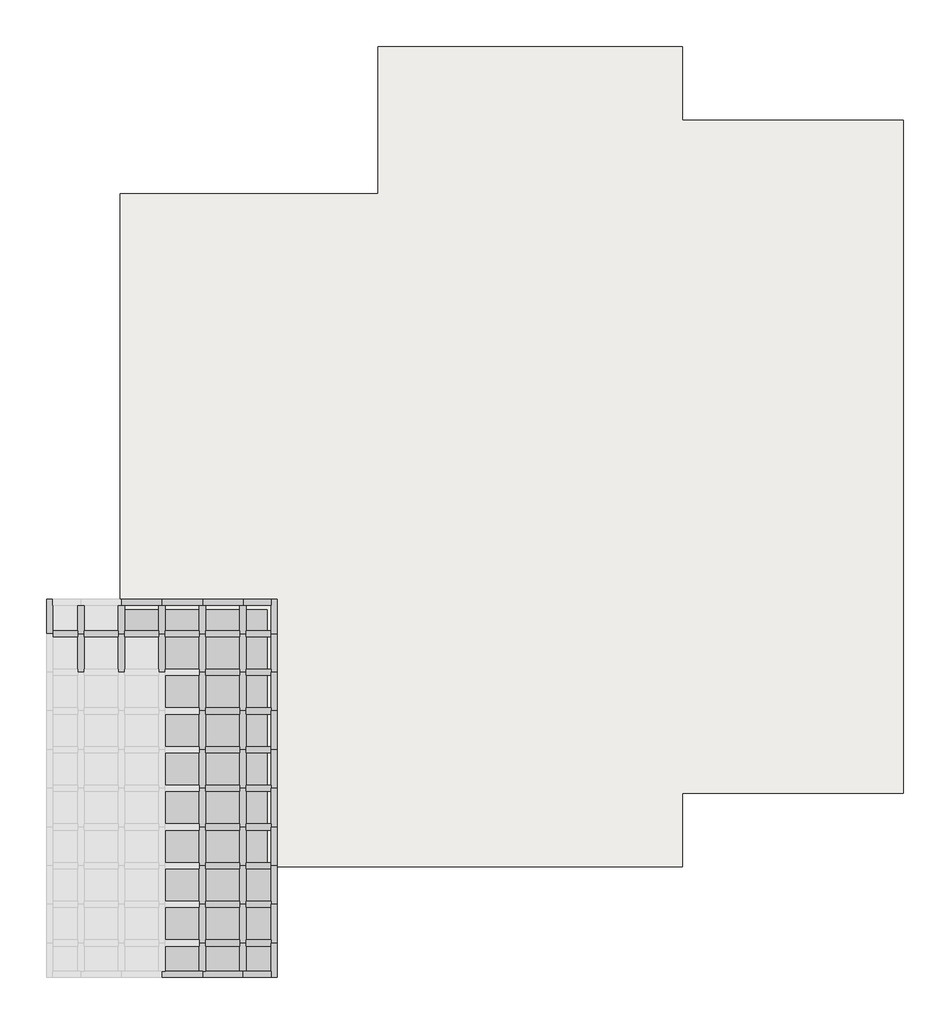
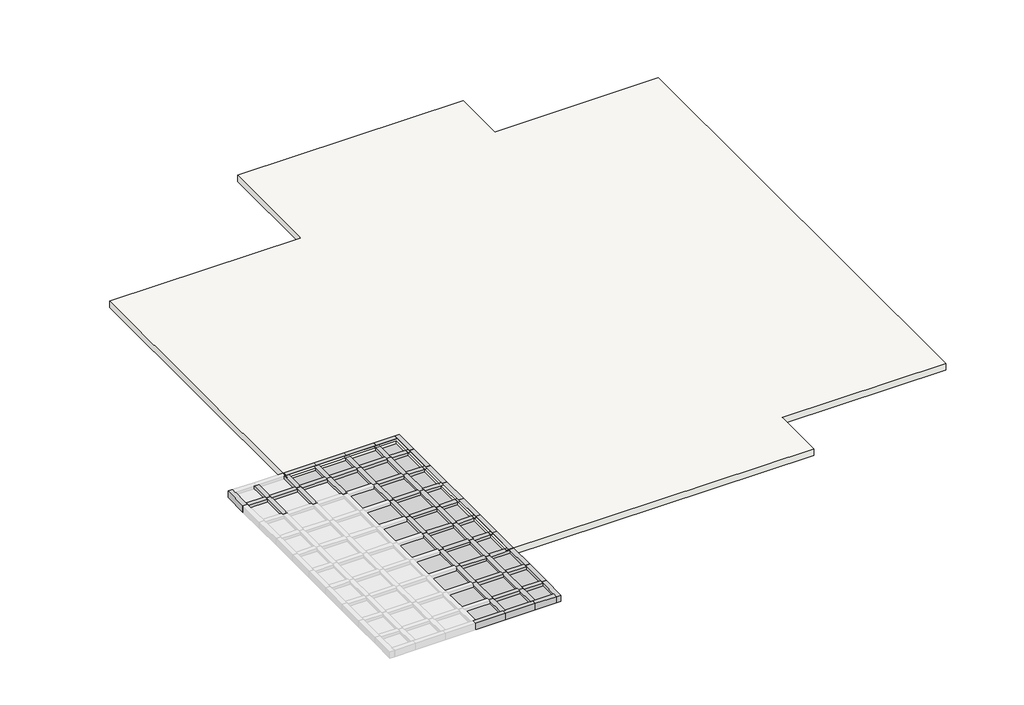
# One storey, part 2 of 2: 66 members, 31 plates, 1 slab.
"""IFC4 building model written with IfcOpenShell, lengths in millimetres."""

from ifc_helpers import new_model, si_unit, frame, origin, place, context, project, spatial, polyline, outline, extrude, transform, mapped, element, save
from components import member_100x150mm_5a4b8349, member_100x150mm_25bd5bcc, member_100x150mm_603da3bf, member_100x150mm_cb2e744a, member_100x150mm_679617a7, member_100x150mm_9d00d28b, member_100x150mm_3c09ebc3, member_100x150mm_210a08aa, plate_ec538d4f, plate_1a9b818e, plate_9b97b4d8, plate_b0de3d82

model = new_model("IFC4")

# Units and contexts
model_context = context("Model", 3, world=origin())
ifc_project = project(units=[si_unit("LENGTHUNIT", "METRE", prefix="MILLI")], contexts=[model_context])

# Site, building, storey
site = spatial("IfcSite", under=ifc_project)
building = spatial("IfcBuilding", under=site)
storey = spatial("IfcBuildingStorey", under=building, Name="标高3", Elevation=6010.0)

# Members
placement = place(None, origin())
member_100x150mm_shape = member_100x150mm_5a4b8349(model_context)
element("IfcMember", 1, ObjectType="矩形竖梃 : 100X150mm", at=placement, inside=storey, context=model_context, shape_type="MappedRepresentation", body=[
    mapped(member_100x150mm_shape, transform((-46687.1400177, -27027.7106127, 5935.0), x_axis=(0.0, 1.0, 0.0), y_axis=(0.0, 0.0, -1.0), z_axis=(-1.0, 0.0, 0.0))),
])
element("IfcMember", 2, ObjectType="矩形竖梃 : 100X150mm", at=placement, inside=storey, context=model_context, shape_type="MappedRepresentation", body=[
    mapped(member_100x150mm_shape, transform((-46687.1400177, -26397.7106127, 5935.0), x_axis=(0.0, 1.0, 0.0), y_axis=(0.0, 0.0, -1.0), z_axis=(-1.0, 0.0, 0.0))),
])
element("IfcMember", 3, ObjectType="矩形竖梃 : 100X150mm", at=placement, inside=storey, context=model_context, shape_type="MappedRepresentation", body=[
    mapped(member_100x150mm_shape, transform((-46687.1400177, -25767.7106127, 5935.0), x_axis=(0.0, 1.0, 0.0), y_axis=(0.0, 0.0, -1.0), z_axis=(-1.0, 0.0, 0.0))),
])
element("IfcMember", 4, ObjectType="矩形竖梃 : 100X150mm", at=placement, inside=storey, context=model_context, shape_type="MappedRepresentation", body=[
    mapped(member_100x150mm_shape, transform((-46687.1400177, -25137.7106127, 5935.0), x_axis=(0.0, 1.0, 0.0), y_axis=(0.0, 0.0, -1.0), z_axis=(-1.0, 0.0, 0.0))),
])
element("IfcMember", 5, ObjectType="矩形竖梃 : 100X150mm", at=placement, inside=storey, context=model_context, shape_type="MappedRepresentation", body=[
    mapped(member_100x150mm_shape, transform((-46687.1400177, -24507.7106127, 5935.0), x_axis=(0.0, 1.0, 0.0), y_axis=(0.0, 0.0, -1.0), z_axis=(-1.0, 0.0, 0.0))),
])
element("IfcMember", 6, ObjectType="矩形竖梃 : 100X150mm", at=placement, inside=storey, context=model_context, shape_type="MappedRepresentation", body=[
    mapped(member_100x150mm_shape, transform((-46687.1400177, -23877.7106127, 5935.0), x_axis=(0.0, 1.0, 0.0), y_axis=(0.0, 0.0, -1.0), z_axis=(-1.0, 0.0, 0.0))),
])
element("IfcMember", 7, ObjectType="矩形竖梃 : 100X150mm", at=placement, inside=storey, context=model_context, shape_type="MappedRepresentation", body=[
    mapped(member_100x150mm_shape, transform((-46687.1400177, -23247.7106127, 5935.0), x_axis=(0.0, 1.0, 0.0), y_axis=(0.0, 0.0, -1.0), z_axis=(-1.0, 0.0, 0.0))),
])
element("IfcMember", 8, ObjectType="矩形竖梃 : 100X150mm", at=placement, inside=storey, context=model_context, shape_type="MappedRepresentation", body=[
    mapped(member_100x150mm_shape, transform((-46687.1400177, -22617.7106127, 5935.0), x_axis=(0.0, 1.0, 0.0), y_axis=(0.0, 0.0, -1.0), z_axis=(-1.0, 0.0, 0.0))),
])
element("IfcMember", 9, ObjectType="矩形竖梃 : 100X150mm", at=placement, inside=storey, context=model_context, shape_type="MappedRepresentation", body=[
    mapped(member_100x150mm_shape, transform((-49837.1400177, -21987.7106127, 5935.0), x_axis=(0.0, 1.0, 0.0), y_axis=(0.0, 0.0, -1.0), z_axis=(-1.0, 0.0, 0.0))),
])
element("IfcMember", 10, ObjectType="矩形竖梃 : 100X150mm", at=placement, inside=storey, context=model_context, shape_type="MappedRepresentation", body=[
    mapped(member_100x150mm_shape, transform((-46687.1400177, -21987.7106127, 5935.0), x_axis=(0.0, 1.0, 0.0), y_axis=(0.0, 0.0, -1.0), z_axis=(-1.0, 0.0, 0.0))),
])
member_100x150mm_2_shape = member_100x150mm_25bd5bcc(model_context)
element("IfcMember", 11, ObjectType="矩形竖梃 : 100X150mm", at=placement, inside=storey, context=model_context, shape_type="MappedRepresentation", body=[
    mapped(member_100x150mm_2_shape, transform((-47347.1400177, -27027.7106127, 5935.0), x_axis=(0.0, 1.0, 0.0), y_axis=(0.0, 0.0, -1.0), z_axis=(-1.0, 0.0, 0.0))),
])
element("IfcMember", 12, ObjectType="矩形竖梃 : 100X150mm", at=placement, inside=storey, context=model_context, shape_type="MappedRepresentation", body=[
    mapped(member_100x150mm_2_shape, transform((-47347.1400177, -26397.7106127, 5935.0), x_axis=(0.0, 1.0, 0.0), y_axis=(0.0, 0.0, -1.0), z_axis=(-1.0, 0.0, 0.0))),
])
element("IfcMember", 13, ObjectType="矩形竖梃 : 100X150mm", at=placement, inside=storey, context=model_context, shape_type="MappedRepresentation", body=[
    mapped(member_100x150mm_2_shape, transform((-47347.1400177, -25767.7106127, 5935.0), x_axis=(0.0, 1.0, 0.0), y_axis=(0.0, 0.0, -1.0), z_axis=(-1.0, 0.0, 0.0))),
])
element("IfcMember", 14, ObjectType="矩形竖梃 : 100X150mm", at=placement, inside=storey, context=model_context, shape_type="MappedRepresentation", body=[
    mapped(member_100x150mm_2_shape, transform((-47347.1400177, -25137.7106127, 5935.0), x_axis=(0.0, 1.0, 0.0), y_axis=(0.0, 0.0, -1.0), z_axis=(-1.0, 0.0, 0.0))),
])
element("IfcMember", 15, ObjectType="矩形竖梃 : 100X150mm", at=placement, inside=storey, context=model_context, shape_type="MappedRepresentation", body=[
    mapped(member_100x150mm_2_shape, transform((-47347.1400177, -24507.7106127, 5935.0), x_axis=(0.0, 1.0, 0.0), y_axis=(0.0, 0.0, -1.0), z_axis=(-1.0, 0.0, 0.0))),
])
element("IfcMember", 16, ObjectType="矩形竖梃 : 100X150mm", at=placement, inside=storey, context=model_context, shape_type="MappedRepresentation", body=[
    mapped(member_100x150mm_2_shape, transform((-47347.1400177, -23877.7106127, 5935.0), x_axis=(0.0, 1.0, 0.0), y_axis=(0.0, 0.0, -1.0), z_axis=(-1.0, 0.0, 0.0))),
])
element("IfcMember", 17, ObjectType="矩形竖梃 : 100X150mm", at=placement, inside=storey, context=model_context, shape_type="MappedRepresentation", body=[
    mapped(member_100x150mm_2_shape, transform((-47347.1400177, -23247.7106127, 5935.0), x_axis=(0.0, 1.0, 0.0), y_axis=(0.0, 0.0, -1.0), z_axis=(-1.0, 0.0, 0.0))),
])
element("IfcMember", 18, ObjectType="矩形竖梃 : 100X150mm", at=placement, inside=storey, context=model_context, shape_type="MappedRepresentation", body=[
    mapped(member_100x150mm_2_shape, transform((-47347.1400177, -22617.7106127, 5935.0), x_axis=(0.0, 1.0, 0.0), y_axis=(0.0, 0.0, -1.0), z_axis=(-1.0, 0.0, 0.0))),
])
element("IfcMember", 19, ObjectType="矩形竖梃 : 100X150mm", at=placement, inside=storey, context=model_context, shape_type="MappedRepresentation", body=[
    mapped(member_100x150mm_2_shape, transform((-49327.1400177, -21987.7106127, 5935.0), x_axis=(0.0, 1.0, 0.0), y_axis=(0.0, 0.0, -1.0), z_axis=(-1.0, 0.0, 0.0))),
])
element("IfcMember", 20, ObjectType="矩形竖梃 : 100X150mm", at=placement, inside=storey, context=model_context, shape_type="MappedRepresentation", body=[
    mapped(member_100x150mm_2_shape, transform((-48667.1400177, -21987.7106127, 5935.0), x_axis=(0.0, 1.0, 0.0), y_axis=(0.0, 0.0, -1.0), z_axis=(-1.0, 0.0, 0.0))),
])
element("IfcMember", 21, ObjectType="矩形竖梃 : 100X150mm", at=placement, inside=storey, context=model_context, shape_type="MappedRepresentation", body=[
    mapped(member_100x150mm_2_shape, transform((-48007.1400177, -21987.7106127, 5935.0), x_axis=(0.0, 1.0, 0.0), y_axis=(0.0, 0.0, -1.0), z_axis=(-1.0, 0.0, 0.0))),
])
element("IfcMember", 22, ObjectType="矩形竖梃 : 100X150mm", at=placement, inside=storey, context=model_context, shape_type="MappedRepresentation", body=[
    mapped(member_100x150mm_2_shape, transform((-47347.1400177, -21987.7106127, 5935.0), x_axis=(0.0, 1.0, 0.0), y_axis=(0.0, 0.0, -1.0), z_axis=(-1.0, 0.0, 0.0))),
])
member_100x150mm_3_shape = member_100x150mm_603da3bf(model_context)
element("IfcMember", 23, ObjectType="矩形竖梃 : 100X150mm", at=placement, inside=storey, context=model_context, shape_type="MappedRepresentation", body=[
    mapped(member_100x150mm_3_shape, transform((-49377.1400177, -21527.7106127, 5935.0), x_axis=(1.0, 0.0, 0.0), y_axis=(0.0, 0.0, -1.0), z_axis=(0.0, 1.0, 0.0))),
])
element("IfcMember", 24, ObjectType="矩形竖梃 : 100X150mm", at=placement, inside=storey, context=model_context, shape_type="MappedRepresentation", body=[
    mapped(member_100x150mm_3_shape, transform((-48717.1400177, -21527.7106127, 5935.0), x_axis=(1.0, 0.0, 0.0), y_axis=(0.0, 0.0, -1.0), z_axis=(0.0, 1.0, 0.0))),
])
element("IfcMember", 25, ObjectType="矩形竖梃 : 100X150mm", at=placement, inside=storey, context=model_context, shape_type="MappedRepresentation", body=[
    mapped(member_100x150mm_3_shape, transform((-48057.1400177, -21527.7106127, 5935.0), x_axis=(1.0, 0.0, 0.0), y_axis=(0.0, 0.0, -1.0), z_axis=(0.0, 1.0, 0.0))),
])
element("IfcMember", 26, ObjectType="矩形竖梃 : 100X150mm", at=placement, inside=storey, context=model_context, shape_type="MappedRepresentation", body=[
    mapped(member_100x150mm_3_shape, transform((-47397.1400177, -21527.7106127, 5935.0), x_axis=(1.0, 0.0, 0.0), y_axis=(0.0, 0.0, -1.0), z_axis=(0.0, 1.0, 0.0))),
])
element("IfcMember", 27, ObjectType="矩形竖梃 : 100X150mm", at=placement, inside=storey, context=model_context, shape_type="MappedRepresentation", body=[
    mapped(member_100x150mm_3_shape, transform((-46737.1400177, -21527.7106127, 5935.0), x_axis=(1.0, 0.0, 0.0), y_axis=(0.0, 0.0, -1.0), z_axis=(0.0, 1.0, 0.0))),
])
element("IfcMember", 28, ObjectType="矩形竖梃 : 100X150mm", at=placement, inside=storey, context=model_context, shape_type="MappedRepresentation", body=[
    mapped(member_100x150mm_3_shape, transform((-47397.1400177, -27027.7106127, 5935.0), x_axis=(1.0, 0.0, 0.0), y_axis=(0.0, 0.0, -1.0), z_axis=(0.0, 1.0, 0.0))),
])
element("IfcMember", 29, ObjectType="矩形竖梃 : 100X150mm", at=placement, inside=storey, context=model_context, shape_type="MappedRepresentation", body=[
    mapped(member_100x150mm_3_shape, transform((-46737.1400177, -27027.7106127, 5935.0), x_axis=(1.0, 0.0, 0.0), y_axis=(0.0, 0.0, -1.0), z_axis=(0.0, 1.0, 0.0))),
])
member_100x150mm_4_shape = member_100x150mm_cb2e744a(model_context)
element("IfcMember", 30, ObjectType="矩形竖梃 : 100X150mm", at=placement, inside=storey, context=model_context, shape_type="MappedRepresentation", body=[
    mapped(member_100x150mm_4_shape, transform((-47397.1400177, -26397.7106127, 5935.0), x_axis=(1.0, 0.0, 0.0), y_axis=(0.0, 0.0, -1.0), z_axis=(0.0, 1.0, 0.0))),
])
element("IfcMember", 31, ObjectType="矩形竖梃 : 100X150mm", at=placement, inside=storey, context=model_context, shape_type="MappedRepresentation", body=[
    mapped(member_100x150mm_4_shape, transform((-46737.1400177, -26397.7106127, 5935.0), x_axis=(1.0, 0.0, 0.0), y_axis=(0.0, 0.0, -1.0), z_axis=(0.0, 1.0, 0.0))),
])
element("IfcMember", 32, ObjectType="矩形竖梃 : 100X150mm", at=placement, inside=storey, context=model_context, shape_type="MappedRepresentation", body=[
    mapped(member_100x150mm_4_shape, transform((-47397.1400177, -25767.7106127, 5935.0), x_axis=(1.0, 0.0, 0.0), y_axis=(0.0, 0.0, -1.0), z_axis=(0.0, 1.0, 0.0))),
])
element("IfcMember", 33, ObjectType="矩形竖梃 : 100X150mm", at=placement, inside=storey, context=model_context, shape_type="MappedRepresentation", body=[
    mapped(member_100x150mm_4_shape, transform((-46737.1400177, -25767.7106127, 5935.0), x_axis=(1.0, 0.0, 0.0), y_axis=(0.0, 0.0, -1.0), z_axis=(0.0, 1.0, 0.0))),
])
element("IfcMember", 34, ObjectType="矩形竖梃 : 100X150mm", at=placement, inside=storey, context=model_context, shape_type="MappedRepresentation", body=[
    mapped(member_100x150mm_4_shape, transform((-47397.1400177, -25137.7106127, 5935.0), x_axis=(1.0, 0.0, 0.0), y_axis=(0.0, 0.0, -1.0), z_axis=(0.0, 1.0, 0.0))),
])
element("IfcMember", 35, ObjectType="矩形竖梃 : 100X150mm", at=placement, inside=storey, context=model_context, shape_type="MappedRepresentation", body=[
    mapped(member_100x150mm_4_shape, transform((-46737.1400177, -25137.7106127, 5935.0), x_axis=(1.0, 0.0, 0.0), y_axis=(0.0, 0.0, -1.0), z_axis=(0.0, 1.0, 0.0))),
])
element("IfcMember", 36, ObjectType="矩形竖梃 : 100X150mm", at=placement, inside=storey, context=model_context, shape_type="MappedRepresentation", body=[
    mapped(member_100x150mm_4_shape, transform((-47397.1400177, -24507.7106127, 5935.0), x_axis=(1.0, 0.0, 0.0), y_axis=(0.0, 0.0, -1.0), z_axis=(0.0, 1.0, 0.0))),
])
element("IfcMember", 37, ObjectType="矩形竖梃 : 100X150mm", at=placement, inside=storey, context=model_context, shape_type="MappedRepresentation", body=[
    mapped(member_100x150mm_4_shape, transform((-46737.1400177, -24507.7106127, 5935.0), x_axis=(1.0, 0.0, 0.0), y_axis=(0.0, 0.0, -1.0), z_axis=(0.0, 1.0, 0.0))),
])
element("IfcMember", 38, ObjectType="矩形竖梃 : 100X150mm", at=placement, inside=storey, context=model_context, shape_type="MappedRepresentation", body=[
    mapped(member_100x150mm_4_shape, transform((-47397.1400177, -23877.7106127, 5935.0), x_axis=(1.0, 0.0, 0.0), y_axis=(0.0, 0.0, -1.0), z_axis=(0.0, 1.0, 0.0))),
])
element("IfcMember", 39, ObjectType="矩形竖梃 : 100X150mm", at=placement, inside=storey, context=model_context, shape_type="MappedRepresentation", body=[
    mapped(member_100x150mm_4_shape, transform((-46737.1400177, -23877.7106127, 5935.0), x_axis=(1.0, 0.0, 0.0), y_axis=(0.0, 0.0, -1.0), z_axis=(0.0, 1.0, 0.0))),
])
element("IfcMember", 40, ObjectType="矩形竖梃 : 100X150mm", at=placement, inside=storey, context=model_context, shape_type="MappedRepresentation", body=[
    mapped(member_100x150mm_4_shape, transform((-47397.1400177, -23247.7106127, 5935.0), x_axis=(1.0, 0.0, 0.0), y_axis=(0.0, 0.0, -1.0), z_axis=(0.0, 1.0, 0.0))),
])
element("IfcMember", 41, ObjectType="矩形竖梃 : 100X150mm", at=placement, inside=storey, context=model_context, shape_type="MappedRepresentation", body=[
    mapped(member_100x150mm_4_shape, transform((-46737.1400177, -23247.7106127, 5935.0), x_axis=(1.0, 0.0, 0.0), y_axis=(0.0, 0.0, -1.0), z_axis=(0.0, 1.0, 0.0))),
])
element("IfcMember", 42, ObjectType="矩形竖梃 : 100X150mm", at=placement, inside=storey, context=model_context, shape_type="MappedRepresentation", body=[
    mapped(member_100x150mm_4_shape, transform((-47397.1400177, -22617.7106127, 5935.0), x_axis=(1.0, 0.0, 0.0), y_axis=(0.0, 0.0, -1.0), z_axis=(0.0, 1.0, 0.0))),
])
element("IfcMember", 43, ObjectType="矩形竖梃 : 100X150mm", at=placement, inside=storey, context=model_context, shape_type="MappedRepresentation", body=[
    mapped(member_100x150mm_4_shape, transform((-46737.1400177, -22617.7106127, 5935.0), x_axis=(1.0, 0.0, 0.0), y_axis=(0.0, 0.0, -1.0), z_axis=(0.0, 1.0, 0.0))),
])
element("IfcMember", 44, ObjectType="矩形竖梃 : 100X150mm", at=placement, inside=storey, context=model_context, shape_type="MappedRepresentation", body=[
    mapped(member_100x150mm_4_shape, transform((-49377.1400177, -21987.7106127, 5935.0), x_axis=(1.0, 0.0, 0.0), y_axis=(0.0, 0.0, -1.0), z_axis=(0.0, 1.0, 0.0))),
])
element("IfcMember", 45, ObjectType="矩形竖梃 : 100X150mm", at=placement, inside=storey, context=model_context, shape_type="MappedRepresentation", body=[
    mapped(member_100x150mm_4_shape, transform((-48717.1400177, -21987.7106127, 5935.0), x_axis=(1.0, 0.0, 0.0), y_axis=(0.0, 0.0, -1.0), z_axis=(0.0, 1.0, 0.0))),
])
element("IfcMember", 46, ObjectType="矩形竖梃 : 100X150mm", at=placement, inside=storey, context=model_context, shape_type="MappedRepresentation", body=[
    mapped(member_100x150mm_4_shape, transform((-48057.1400177, -21987.7106127, 5935.0), x_axis=(1.0, 0.0, 0.0), y_axis=(0.0, 0.0, -1.0), z_axis=(0.0, 1.0, 0.0))),
])
element("IfcMember", 47, ObjectType="矩形竖梃 : 100X150mm", at=placement, inside=storey, context=model_context, shape_type="MappedRepresentation", body=[
    mapped(member_100x150mm_4_shape, transform((-47397.1400177, -21987.7106127, 5935.0), x_axis=(1.0, 0.0, 0.0), y_axis=(0.0, 0.0, -1.0), z_axis=(0.0, 1.0, 0.0))),
])
element("IfcMember", 48, ObjectType="矩形竖梃 : 100X150mm", at=placement, inside=storey, context=model_context, shape_type="MappedRepresentation", body=[
    mapped(member_100x150mm_4_shape, transform((-46737.1400177, -21987.7106127, 5935.0), x_axis=(1.0, 0.0, 0.0), y_axis=(0.0, 0.0, -1.0), z_axis=(0.0, 1.0, 0.0))),
])
member_100x150mm_5_shape = member_100x150mm_679617a7(model_context)
element("IfcMember", 49, ObjectType="矩形竖梃 : 100X150mm", at=placement, inside=storey, context=model_context, shape_type="MappedRepresentation", body=[
    mapped(member_100x150mm_5_shape, transform((-46277.1400177, -27587.7106127, 5935.0), x_axis=(0.0, -1.0, 0.0), y_axis=(0.0, 0.0, -1.0), z_axis=(1.0, 0.0, 0.0))),
])
element("IfcMember", 50, ObjectType="矩形竖梃 : 100X150mm", at=placement, inside=storey, context=model_context, shape_type="MappedRepresentation", body=[
    mapped(member_100x150mm_5_shape, transform((-46737.1400177, -21427.7106127, 5935.0), x_axis=(0.0, 1.0, 0.0), y_axis=(0.0, 0.0, -1.0), z_axis=(-1.0, 0.0, 0.0))),
])
member_100x150mm_6_shape = member_100x150mm_9d00d28b(model_context)
element("IfcMember", 51, ObjectType="矩形竖梃 : 100X150mm", at=placement, inside=storey, context=model_context, shape_type="MappedRepresentation", body=[
    mapped(member_100x150mm_6_shape, transform((-47397.1400177, -27587.7106127, 5935.0), x_axis=(0.0, -1.0, 0.0), y_axis=(0.0, 0.0, -1.0), z_axis=(1.0, 0.0, 0.0))),
])
element("IfcMember", 52, ObjectType="矩形竖梃 : 100X150mm", at=placement, inside=storey, context=model_context, shape_type="MappedRepresentation", body=[
    mapped(member_100x150mm_6_shape, transform((-46737.1400177, -27587.7106127, 5935.0), x_axis=(0.0, -1.0, 0.0), y_axis=(0.0, 0.0, -1.0), z_axis=(1.0, 0.0, 0.0))),
])
element("IfcMember", 53, ObjectType="矩形竖梃 : 100X150mm", at=placement, inside=storey, context=model_context, shape_type="MappedRepresentation", body=[
    mapped(member_100x150mm_6_shape, transform((-48717.1400177, -21427.7106127, 5935.0), x_axis=(0.0, 1.0, 0.0), y_axis=(0.0, 0.0, -1.0), z_axis=(-1.0, 0.0, 0.0))),
])
element("IfcMember", 54, ObjectType="矩形竖梃 : 100X150mm", at=placement, inside=storey, context=model_context, shape_type="MappedRepresentation", body=[
    mapped(member_100x150mm_6_shape, transform((-48057.1400177, -21427.7106127, 5935.0), x_axis=(0.0, 1.0, 0.0), y_axis=(0.0, 0.0, -1.0), z_axis=(-1.0, 0.0, 0.0))),
])
element("IfcMember", 55, ObjectType="矩形竖梃 : 100X150mm", at=placement, inside=storey, context=model_context, shape_type="MappedRepresentation", body=[
    mapped(member_100x150mm_6_shape, transform((-47397.1400177, -21427.7106127, 5935.0), x_axis=(0.0, 1.0, 0.0), y_axis=(0.0, 0.0, -1.0), z_axis=(-1.0, 0.0, 0.0))),
])
member_100x150mm_7_shape = member_100x150mm_3c09ebc3(model_context)
element("IfcMember", 56, ObjectType="矩形竖梃 : 100X150mm", at=placement, inside=storey, context=model_context, shape_type="MappedRepresentation", body=[
    mapped(member_100x150mm_7_shape, transform((-46177.1400177, -21427.7106127, 5935.0), x_axis=(1.0, 0.0, 0.0), y_axis=(0.0, 0.0, -1.0), z_axis=(0.0, 1.0, 0.0))),
])
member_100x150mm_8_shape = member_100x150mm_210a08aa(model_context)
element("IfcMember", 57, ObjectType="矩形竖梃 : 100X150mm", at=placement, inside=storey, context=model_context, shape_type="MappedRepresentation", body=[
    mapped(member_100x150mm_8_shape, transform((-46177.1400177, -26397.7106127, 5935.0), x_axis=(1.0, 0.0, 0.0), y_axis=(0.0, 0.0, -1.0), z_axis=(0.0, 1.0, 0.0))),
])
element("IfcMember", 58, ObjectType="矩形竖梃 : 100X150mm", at=placement, inside=storey, context=model_context, shape_type="MappedRepresentation", body=[
    mapped(member_100x150mm_8_shape, transform((-46177.1400177, -25767.7106127, 5935.0), x_axis=(1.0, 0.0, 0.0), y_axis=(0.0, 0.0, -1.0), z_axis=(0.0, 1.0, 0.0))),
])
element("IfcMember", 59, ObjectType="矩形竖梃 : 100X150mm", at=placement, inside=storey, context=model_context, shape_type="MappedRepresentation", body=[
    mapped(member_100x150mm_8_shape, transform((-46177.1400177, -25137.7106127, 5935.0), x_axis=(1.0, 0.0, 0.0), y_axis=(0.0, 0.0, -1.0), z_axis=(0.0, 1.0, 0.0))),
])
element("IfcMember", 60, ObjectType="矩形竖梃 : 100X150mm", at=placement, inside=storey, context=model_context, shape_type="MappedRepresentation", body=[
    mapped(member_100x150mm_8_shape, transform((-46177.1400177, -24507.7106127, 5935.0), x_axis=(1.0, 0.0, 0.0), y_axis=(0.0, 0.0, -1.0), z_axis=(0.0, 1.0, 0.0))),
])
element("IfcMember", 61, ObjectType="矩形竖梃 : 100X150mm", at=placement, inside=storey, context=model_context, shape_type="MappedRepresentation", body=[
    mapped(member_100x150mm_8_shape, transform((-46177.1400177, -23877.7106127, 5935.0), x_axis=(1.0, 0.0, 0.0), y_axis=(0.0, 0.0, -1.0), z_axis=(0.0, 1.0, 0.0))),
])
element("IfcMember", 62, ObjectType="矩形竖梃 : 100X150mm", at=placement, inside=storey, context=model_context, shape_type="MappedRepresentation", body=[
    mapped(member_100x150mm_8_shape, transform((-46177.1400177, -23247.7106127, 5935.0), x_axis=(1.0, 0.0, 0.0), y_axis=(0.0, 0.0, -1.0), z_axis=(0.0, 1.0, 0.0))),
])
element("IfcMember", 63, ObjectType="矩形竖梃 : 100X150mm", at=placement, inside=storey, context=model_context, shape_type="MappedRepresentation", body=[
    mapped(member_100x150mm_8_shape, transform((-46177.1400177, -22617.7106127, 5935.0), x_axis=(1.0, 0.0, 0.0), y_axis=(0.0, 0.0, -1.0), z_axis=(0.0, 1.0, 0.0))),
])
element("IfcMember", 64, ObjectType="矩形竖梃 : 100X150mm", at=placement, inside=storey, context=model_context, shape_type="MappedRepresentation", body=[
    mapped(member_100x150mm_8_shape, transform((-46177.1400177, -21987.7106127, 5935.0), x_axis=(1.0, 0.0, 0.0), y_axis=(0.0, 0.0, -1.0), z_axis=(0.0, 1.0, 0.0))),
])
element("IfcMember", 65, ObjectType="矩形竖梃 : 100X150mm", at=placement, inside=storey, context=model_context, shape_type="MappedRepresentation", body=[
    mapped(member_100x150mm_7_shape, transform((-49937.1400177, -21987.7106127, 5935.0), x_axis=(-1.0, 0.0, 0.0), y_axis=(0.0, 0.0, -1.0), z_axis=(0.0, -1.0, 0.0))),
])
element("IfcMember", 66, ObjectType="矩形竖梃 : 100X150mm", at=placement, inside=storey, context=model_context, shape_type="MappedRepresentation", body=[
    mapped(member_100x150mm_7_shape, transform((-46177.1400177, -27027.7106127, 5935.0), x_axis=(1.0, 0.0, 0.0), y_axis=(0.0, 0.0, -1.0), z_axis=(0.0, 1.0, 0.0))),
])

# Plates
plate_shape = plate_ec538d4f(model_context)
element("IfcPlate", 67, ObjectType="系统嵌板 : 玻璃", at=placement, inside=storey, context=model_context, shape_type="MappedRepresentation", body=[
    mapped(plate_shape, transform((-46482.1400177, -27487.7106127, 5935.0), x_axis=(1.0, 0.0, 0.0), y_axis=(0.0, 0.0, -1.0), z_axis=(0.0, 1.0, 0.0))),
])
element("IfcPlate", 68, ObjectType="系统嵌板 : 玻璃", at=placement, inside=storey, context=model_context, shape_type="MappedRepresentation", body=[
    mapped(plate_shape, transform((-46482.1400177, -21937.7106127, 5935.0), x_axis=(1.0, 0.0, 0.0), y_axis=(0.0, 0.0, -1.0), z_axis=(0.0, 1.0, 0.0))),
])
plate_2_shape = plate_1a9b818e(model_context)
element("IfcPlate", 69, ObjectType="系统嵌板 : 玻璃", at=placement, inside=storey, context=model_context, shape_type="MappedRepresentation", body=[
    mapped(plate_2_shape, transform((-47727.1400177, -27487.7106127, 5935.0), x_axis=(1.0, 0.0, 0.0), y_axis=(0.0, 0.0, -1.0), z_axis=(0.0, 1.0, 0.0))),
])
element("IfcPlate", 70, ObjectType="系统嵌板 : 玻璃", at=placement, inside=storey, context=model_context, shape_type="MappedRepresentation", body=[
    mapped(plate_2_shape, transform((-47067.1400177, -27487.7106127, 5935.0), x_axis=(1.0, 0.0, 0.0), y_axis=(0.0, 0.0, -1.0), z_axis=(0.0, 1.0, 0.0))),
])
element("IfcPlate", 71, ObjectType="系统嵌板 : 玻璃", at=placement, inside=storey, context=model_context, shape_type="MappedRepresentation", body=[
    mapped(plate_2_shape, transform((-47067.1400177, -21937.7106127, 5935.0), x_axis=(1.0, 0.0, 0.0), y_axis=(0.0, 0.0, -1.0), z_axis=(0.0, 1.0, 0.0))),
])
element("IfcPlate", 72, ObjectType="系统嵌板 : 玻璃", at=placement, inside=storey, context=model_context, shape_type="MappedRepresentation", body=[
    mapped(plate_2_shape, transform((-48387.1400177, -21937.7106127, 5935.0), x_axis=(1.0, 0.0, 0.0), y_axis=(0.0, 0.0, -1.0), z_axis=(0.0, 1.0, 0.0))),
])
element("IfcPlate", 73, ObjectType="系统嵌板 : 玻璃", at=placement, inside=storey, context=model_context, shape_type="MappedRepresentation", body=[
    mapped(plate_2_shape, transform((-47727.1400177, -21937.7106127, 5935.0), x_axis=(1.0, 0.0, 0.0), y_axis=(0.0, 0.0, -1.0), z_axis=(0.0, 1.0, 0.0))),
])
plate_3_shape = plate_9b97b4d8(model_context)
element("IfcPlate", 74, ObjectType="系统嵌板 : 玻璃", at=placement, inside=storey, context=model_context, shape_type="MappedRepresentation", body=[
    mapped(plate_3_shape, transform((-46482.1400177, -26977.7106127, 5935.0), x_axis=(1.0, 0.0, 0.0), y_axis=(0.0, 0.0, -1.0), z_axis=(0.0, 1.0, 0.0))),
])
element("IfcPlate", 75, ObjectType="系统嵌板 : 玻璃", at=placement, inside=storey, context=model_context, shape_type="MappedRepresentation", body=[
    mapped(plate_3_shape, transform((-46482.1400177, -26347.7106127, 5935.0), x_axis=(1.0, 0.0, 0.0), y_axis=(0.0, 0.0, -1.0), z_axis=(0.0, 1.0, 0.0))),
])
element("IfcPlate", 76, ObjectType="系统嵌板 : 玻璃", at=placement, inside=storey, context=model_context, shape_type="MappedRepresentation", body=[
    mapped(plate_3_shape, transform((-46482.1400177, -25717.7106127, 5935.0), x_axis=(1.0, 0.0, 0.0), y_axis=(0.0, 0.0, -1.0), z_axis=(0.0, 1.0, 0.0))),
])
element("IfcPlate", 77, ObjectType="系统嵌板 : 玻璃", at=placement, inside=storey, context=model_context, shape_type="MappedRepresentation", body=[
    mapped(plate_3_shape, transform((-46482.1400177, -25087.7106127, 5935.0), x_axis=(1.0, 0.0, 0.0), y_axis=(0.0, 0.0, -1.0), z_axis=(0.0, 1.0, 0.0))),
])
element("IfcPlate", 78, ObjectType="系统嵌板 : 玻璃", at=placement, inside=storey, context=model_context, shape_type="MappedRepresentation", body=[
    mapped(plate_3_shape, transform((-46482.1400177, -24457.7106127, 5935.0), x_axis=(1.0, 0.0, 0.0), y_axis=(0.0, 0.0, -1.0), z_axis=(0.0, 1.0, 0.0))),
])
element("IfcPlate", 79, ObjectType="系统嵌板 : 玻璃", at=placement, inside=storey, context=model_context, shape_type="MappedRepresentation", body=[
    mapped(plate_3_shape, transform((-46482.1400177, -23827.7106127, 5935.0), x_axis=(1.0, 0.0, 0.0), y_axis=(0.0, 0.0, -1.0), z_axis=(0.0, 1.0, 0.0))),
])
element("IfcPlate", 80, ObjectType="系统嵌板 : 玻璃", at=placement, inside=storey, context=model_context, shape_type="MappedRepresentation", body=[
    mapped(plate_3_shape, transform((-46482.1400177, -23197.7106127, 5935.0), x_axis=(1.0, 0.0, 0.0), y_axis=(0.0, 0.0, -1.0), z_axis=(0.0, 1.0, 0.0))),
])
element("IfcPlate", 81, ObjectType="系统嵌板 : 玻璃", at=placement, inside=storey, context=model_context, shape_type="MappedRepresentation", body=[
    mapped(plate_3_shape, transform((-46482.1400177, -22567.7106127, 5935.0), x_axis=(1.0, 0.0, 0.0), y_axis=(0.0, 0.0, -1.0), z_axis=(0.0, 1.0, 0.0))),
])
plate_4_shape = plate_b0de3d82(model_context)
element("IfcPlate", 82, ObjectType="系统嵌板 : 玻璃", at=placement, inside=storey, context=model_context, shape_type="MappedRepresentation", body=[
    mapped(plate_4_shape, transform((-47067.1400177, -26977.7106127, 5935.0), x_axis=(1.0, 0.0, 0.0), y_axis=(0.0, 0.0, -1.0), z_axis=(0.0, 1.0, 0.0))),
])
element("IfcPlate", 83, ObjectType="系统嵌板 : 玻璃", at=placement, inside=storey, context=model_context, shape_type="MappedRepresentation", body=[
    mapped(plate_4_shape, transform((-47727.1400177, -26977.7106127, 5935.0), x_axis=(1.0, 0.0, 0.0), y_axis=(0.0, 0.0, -1.0), z_axis=(0.0, 1.0, 0.0))),
])
element("IfcPlate", 84, ObjectType="系统嵌板 : 玻璃", at=placement, inside=storey, context=model_context, shape_type="MappedRepresentation", body=[
    mapped(plate_4_shape, transform((-47067.1400177, -26347.7106127, 5935.0), x_axis=(1.0, 0.0, 0.0), y_axis=(0.0, 0.0, -1.0), z_axis=(0.0, 1.0, 0.0))),
])
element("IfcPlate", 85, ObjectType="系统嵌板 : 玻璃", at=placement, inside=storey, context=model_context, shape_type="MappedRepresentation", body=[
    mapped(plate_4_shape, transform((-47727.1400177, -26347.7106127, 5935.0), x_axis=(1.0, 0.0, 0.0), y_axis=(0.0, 0.0, -1.0), z_axis=(0.0, 1.0, 0.0))),
])
element("IfcPlate", 86, ObjectType="系统嵌板 : 玻璃", at=placement, inside=storey, context=model_context, shape_type="MappedRepresentation", body=[
    mapped(plate_4_shape, transform((-47067.1400177, -25717.7106127, 5935.0), x_axis=(1.0, 0.0, 0.0), y_axis=(0.0, 0.0, -1.0), z_axis=(0.0, 1.0, 0.0))),
])
element("IfcPlate", 87, ObjectType="系统嵌板 : 玻璃", at=placement, inside=storey, context=model_context, shape_type="MappedRepresentation", body=[
    mapped(plate_4_shape, transform((-47727.1400177, -25717.7106127, 5935.0), x_axis=(1.0, 0.0, 0.0), y_axis=(0.0, 0.0, -1.0), z_axis=(0.0, 1.0, 0.0))),
])
element("IfcPlate", 88, ObjectType="系统嵌板 : 玻璃", at=placement, inside=storey, context=model_context, shape_type="MappedRepresentation", body=[
    mapped(plate_4_shape, transform((-47067.1400177, -25087.7106127, 5935.0), x_axis=(1.0, 0.0, 0.0), y_axis=(0.0, 0.0, -1.0), z_axis=(0.0, 1.0, 0.0))),
])
element("IfcPlate", 89, ObjectType="系统嵌板 : 玻璃", at=placement, inside=storey, context=model_context, shape_type="MappedRepresentation", body=[
    mapped(plate_4_shape, transform((-47727.1400177, -25087.7106127, 5935.0), x_axis=(1.0, 0.0, 0.0), y_axis=(0.0, 0.0, -1.0), z_axis=(0.0, 1.0, 0.0))),
])
element("IfcPlate", 90, ObjectType="系统嵌板 : 玻璃", at=placement, inside=storey, context=model_context, shape_type="MappedRepresentation", body=[
    mapped(plate_4_shape, transform((-47067.1400177, -24457.7106127, 5935.0), x_axis=(1.0, 0.0, 0.0), y_axis=(0.0, 0.0, -1.0), z_axis=(0.0, 1.0, 0.0))),
])
element("IfcPlate", 91, ObjectType="系统嵌板 : 玻璃", at=placement, inside=storey, context=model_context, shape_type="MappedRepresentation", body=[
    mapped(plate_4_shape, transform((-47727.1400177, -24457.7106127, 5935.0), x_axis=(1.0, 0.0, 0.0), y_axis=(0.0, 0.0, -1.0), z_axis=(0.0, 1.0, 0.0))),
])
element("IfcPlate", 92, ObjectType="系统嵌板 : 玻璃", at=placement, inside=storey, context=model_context, shape_type="MappedRepresentation", body=[
    mapped(plate_4_shape, transform((-47067.1400177, -23827.7106127, 5935.0), x_axis=(1.0, 0.0, 0.0), y_axis=(0.0, 0.0, -1.0), z_axis=(0.0, 1.0, 0.0))),
])
element("IfcPlate", 93, ObjectType="系统嵌板 : 玻璃", at=placement, inside=storey, context=model_context, shape_type="MappedRepresentation", body=[
    mapped(plate_4_shape, transform((-47727.1400177, -23827.7106127, 5935.0), x_axis=(1.0, 0.0, 0.0), y_axis=(0.0, 0.0, -1.0), z_axis=(0.0, 1.0, 0.0))),
])
element("IfcPlate", 94, ObjectType="系统嵌板 : 玻璃", at=placement, inside=storey, context=model_context, shape_type="MappedRepresentation", body=[
    mapped(plate_4_shape, transform((-47067.1400177, -23197.7106127, 5935.0), x_axis=(1.0, 0.0, 0.0), y_axis=(0.0, 0.0, -1.0), z_axis=(0.0, 1.0, 0.0))),
])
element("IfcPlate", 95, ObjectType="系统嵌板 : 玻璃", at=placement, inside=storey, context=model_context, shape_type="MappedRepresentation", body=[
    mapped(plate_4_shape, transform((-47727.1400177, -23197.7106127, 5935.0), x_axis=(1.0, 0.0, 0.0), y_axis=(0.0, 0.0, -1.0), z_axis=(0.0, 1.0, 0.0))),
])
element("IfcPlate", 96, ObjectType="系统嵌板 : 玻璃", at=placement, inside=storey, context=model_context, shape_type="MappedRepresentation", body=[
    mapped(plate_4_shape, transform((-47067.1400177, -22567.7106127, 5935.0), x_axis=(1.0, 0.0, 0.0), y_axis=(0.0, 0.0, -1.0), z_axis=(0.0, 1.0, 0.0))),
])
element("IfcPlate", 97, ObjectType="系统嵌板 : 玻璃", at=placement, inside=storey, context=model_context, shape_type="MappedRepresentation", body=[
    mapped(plate_4_shape, transform((-47727.1400177, -22567.7106127, 5935.0), x_axis=(1.0, 0.0, 0.0), y_axis=(0.0, 0.0, -1.0), z_axis=(0.0, 1.0, 0.0))),
])

# Slab
element("IfcSlab", 98, ObjectType="屋顶-150mm-蓝灰色涂料", at=placement, inside=storey, context=model_context, shape_type="SweptSolid", body=[
    extrude(outline(polyline([(-48737.1400177, -14827.7106127), (-44537.1400177, -14827.7106127), (-44537.1400177, -12427.7106127), (-39577.1400177, -12427.7106127), (-39577.1400177, -13627.7106127), (-35977.1400177, -13627.7106127), (-35977.1400177, -24587.7106127), (-39577.1400177, -24587.7106127), (-39577.1400177, -25787.7106127), (-46337.1400177, -25787.7106127), (-46337.1400177, -21587.7106127), (-48737.1400177, -21587.7106127), (-48737.1400177, -14827.7106127)])), frame((0.0, 0.0, 5860.0), z_axis=(0.0, 0.0, 1.0), x_axis=(1.0, 0.0, 0.0)), (0.0, 0.0, 1.0), 150.0),
])

save(model, "model.ifc")
